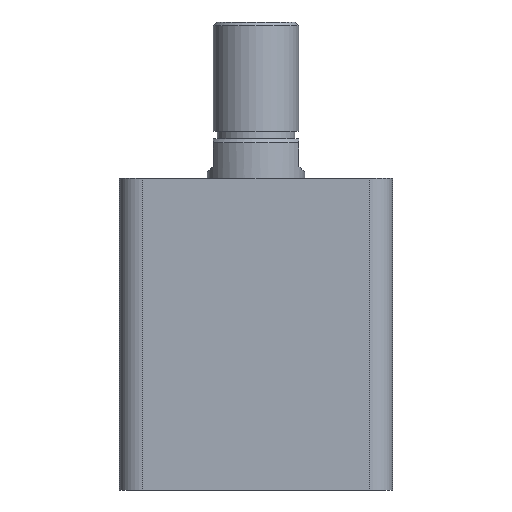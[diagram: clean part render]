
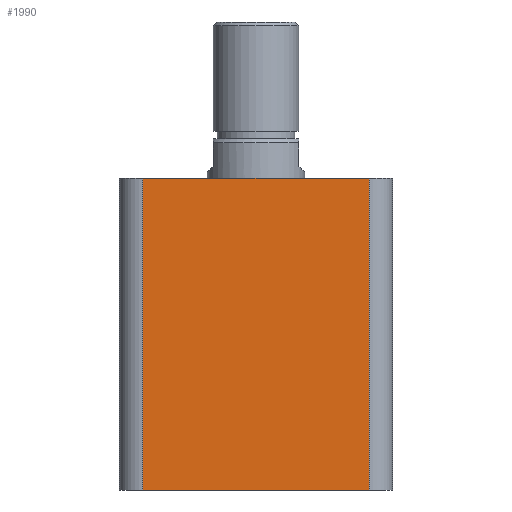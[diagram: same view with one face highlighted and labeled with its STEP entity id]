
A CAD part, front view. The second image highlights one B-rep face of the part: STEP entity #1990.
In plain terms, the highlighted planar face has unit normal (0, -1, 0).
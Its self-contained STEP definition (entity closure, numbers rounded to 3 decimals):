
#72 = EDGE_LOOP ( 'NONE', ( #1119, #1120, #1121, #1122 ) ) ;
#372 = VERTEX_POINT ( 'NONE', #1718 ) ;
#383 = VERTEX_POINT ( 'NONE', #1871 ) ;
#398 = VERTEX_POINT ( 'NONE', #1854 ) ;
#420 = VERTEX_POINT ( 'NONE', #1825 ) ;
#479 = DIRECTION ( 'NONE',  ( 1., 0., 0. ) ) ;
#486 = CARTESIAN_POINT ( 'NONE',  ( -35., -35., 80. ) ) ;
#759 = DIRECTION ( 'NONE',  ( 0., 0., 1. ) ) ;
#760 = DIRECTION ( 'NONE',  ( 0., 1., 0. ) ) ;
#762 = PLANE ( 'NONE',  #931 ) ;
#772 = CARTESIAN_POINT ( 'NONE',  ( -35., -35., 80. ) ) ;
#931 = AXIS2_PLACEMENT_3D ( 'NONE', #772, #760, #759 ) ;
#1119 = ORIENTED_EDGE ( 'NONE', *, *, #2048, .F. ) ;
#1120 = ORIENTED_EDGE ( 'NONE', *, *, #2097, .T. ) ;
#1121 = ORIENTED_EDGE ( 'NONE', *, *, #2098, .T. ) ;
#1122 = ORIENTED_EDGE ( 'NONE', *, *, #2099, .T. ) ;
#1216 = VECTOR ( 'NONE', #479, 1000. ) ;
#1229 = LINE ( 'NONE', #486, #1216 ) ;
#1472 = FACE_OUTER_BOUND ( 'NONE', #72, .T. ) ;
#1718 = CARTESIAN_POINT ( 'NONE',  ( -29., -35., 80. ) ) ;
#1825 = CARTESIAN_POINT ( 'NONE',  ( 29., -35., 0. ) ) ;
#1854 = CARTESIAN_POINT ( 'NONE',  ( 29., -35., 80. ) ) ;
#1871 = CARTESIAN_POINT ( 'NONE',  ( -29., -35., 0. ) ) ;
#1990 = ADVANCED_FACE ( 'NONE', ( #1472 ), #762, .F. ) ;
#2048 = EDGE_CURVE ( 'NONE', #372, #398, #1229, .T. ) ;
#2097 = EDGE_CURVE ( 'NONE', #372, #383, #2476, .T. ) ;
#2098 = EDGE_CURVE ( 'NONE', #383, #420, #2498, .T. ) ;
#2099 = EDGE_CURVE ( 'NONE', #420, #398, #2473, .T. ) ;
#2471 = VECTOR ( 'NONE', #2595, 1000. ) ;
#2472 = VECTOR ( 'NONE', #2596, 1000. ) ;
#2473 = LINE ( 'NONE', #2594, #2471 ) ;
#2474 = VECTOR ( 'NONE', #2608, 1000. ) ;
#2476 = LINE ( 'NONE', #2611, #2474 ) ;
#2498 = LINE ( 'NONE', #2599, #2472 ) ;
#2594 = CARTESIAN_POINT ( 'NONE',  ( 29., -35., 80. ) ) ;
#2595 = DIRECTION ( 'NONE',  ( 0., 0., 1. ) ) ;
#2596 = DIRECTION ( 'NONE',  ( 1., 0., 0. ) ) ;
#2599 = CARTESIAN_POINT ( 'NONE',  ( -35., -35., 0. ) ) ;
#2608 = DIRECTION ( 'NONE',  ( 0., 0., -1. ) ) ;
#2611 = CARTESIAN_POINT ( 'NONE',  ( -29., -35., 80. ) ) ;
